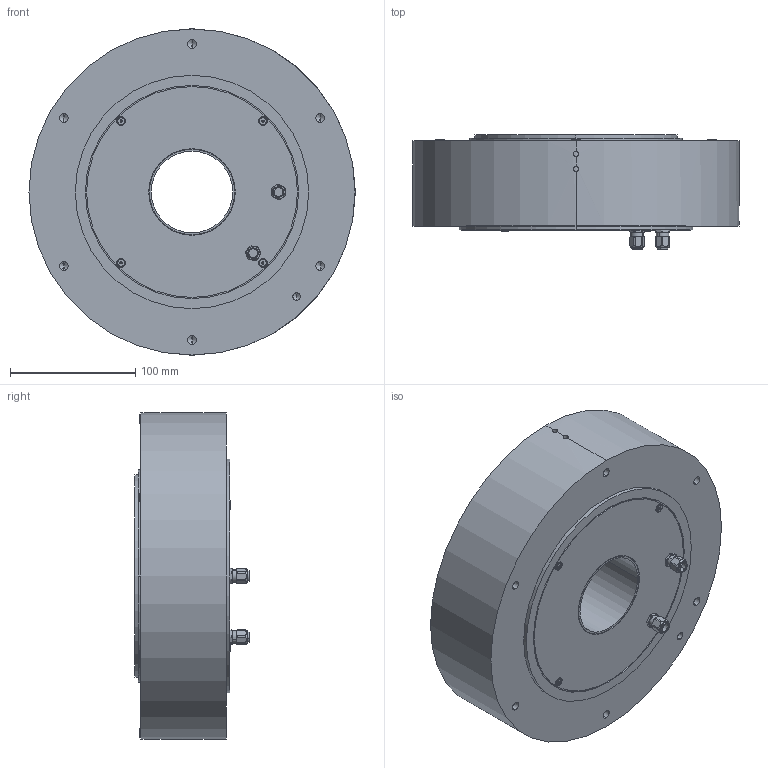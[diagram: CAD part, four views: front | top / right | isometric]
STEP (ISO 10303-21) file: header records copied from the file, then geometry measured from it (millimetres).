
FILE_DESCRIPTION (( 'STEP AP214' ), '1' );
FILE_NAME ('ND250-70-LSP(ABS).step', '2025-03-26T08:12:41', ( '' ), ( '' ), 'SwSTEP 2.0', 'SolidWorks 2024', '' );
FILE_SCHEMA (( 'AUTOMOTIVE_DESIGN' ));
Length unit declared in the file: millimetre
Products named in the file (1): ND250-70-LSP(ABS)
Bounding box: 260 x 91.1 x 260 mm (x, y, z)
Surface area: 362747.2 mm2 (no closed solid volume)
Topology: 0 solids, 17 shells, 613 faces, 1562 edges, 972 vertices
Faces by surface type: cylinder 357, cone 130, plane 86, sphere 20, torus 20
Entity records: 20108 total; most frequent: CARTESIAN_POINT 5314, DIRECTION 3134, ORIENTED_EDGE 2994, EDGE_CURVE 1498, AXIS2_PLACEMENT_3D 1300, VERTEX_POINT 972, EDGE_LOOP 715, CIRCLE 686
